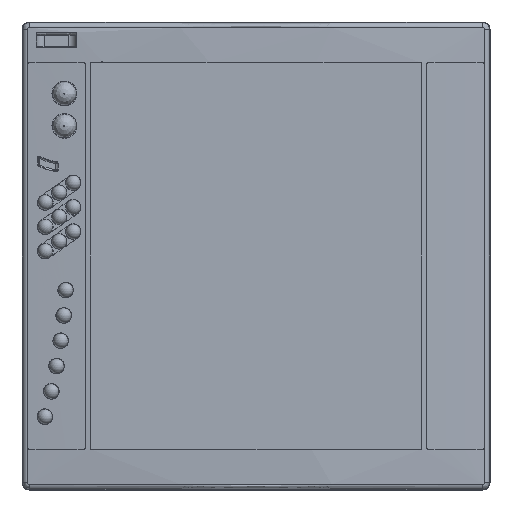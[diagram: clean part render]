
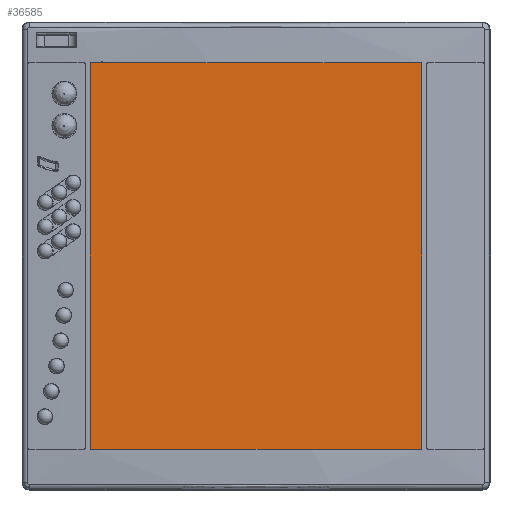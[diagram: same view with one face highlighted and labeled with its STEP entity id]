
A CAD part, front view. The second image highlights one B-rep face of the part: STEP entity #36585.
In plain terms, the highlighted planar face has unit normal (0, -1, 0).
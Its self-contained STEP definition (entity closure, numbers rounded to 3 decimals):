
#36465=CARTESIAN_POINT('',(-34.0,-19.343,-39.6));
#36466=VERTEX_POINT('',#36465);
#36473=CARTESIAN_POINT('',(-34.0,-19.343,39.6));
#36474=VERTEX_POINT('',#36473);
#36475=CARTESIAN_POINT('',(-34.0,-19.343,39.6));
#36476=DIRECTION('',(0.0,0.0,-1.0));
#36477=VECTOR('',#36476,79.2);
#36478=LINE('',#36475,#36477);
#36479=EDGE_CURVE('',#36474,#36466,#36478,.T.);
#36503=CARTESIAN_POINT('',(34.0,-19.343,-39.6));
#36504=VERTEX_POINT('',#36503);
#36511=CARTESIAN_POINT('',(34.0,-19.343,-39.6));
#36512=DIRECTION('',(-1.0,0.0,0.0));
#36513=VECTOR('',#36512,68.0);
#36514=LINE('',#36511,#36513);
#36515=EDGE_CURVE('',#36504,#36466,#36514,.T.);
#36534=CARTESIAN_POINT('',(34.,-19.343,39.6));
#36535=VERTEX_POINT('',#36534);
#36542=CARTESIAN_POINT('',(34.,-19.343,-39.6));
#36543=DIRECTION('',(0.0,0.0,1.0));
#36544=VECTOR('',#36543,79.2);
#36545=LINE('',#36542,#36544);
#36546=EDGE_CURVE('',#36504,#36535,#36545,.T.);
#36564=CARTESIAN_POINT('',(-34.0,-19.343,39.6));
#36565=DIRECTION('',(1.0,0.0,0.0));
#36566=VECTOR('',#36565,68.);
#36567=LINE('',#36564,#36566);
#36568=EDGE_CURVE('',#36474,#36535,#36567,.T.);
#36574=CARTESIAN_POINT('',(34.0,-19.343,0.0));
#36575=DIRECTION('',(0.0,1.0,0.0));
#36576=DIRECTION('',(0.0,0.0,1.0));
#36577=AXIS2_PLACEMENT_3D('',#36574,#36575,#36576);
#36578=PLANE('',#36577);
#36579=ORIENTED_EDGE('',*,*,#36515,.F.);
#36580=ORIENTED_EDGE('',*,*,#36546,.T.);
#36581=ORIENTED_EDGE('',*,*,#36568,.F.);
#36582=ORIENTED_EDGE('',*,*,#36479,.T.);
#36583=EDGE_LOOP('',(#36579,#36580,#36581,#36582));
#36584=FACE_OUTER_BOUND('',#36583,.T.);
#36585=ADVANCED_FACE('',(#36584),#36578,.F.);
